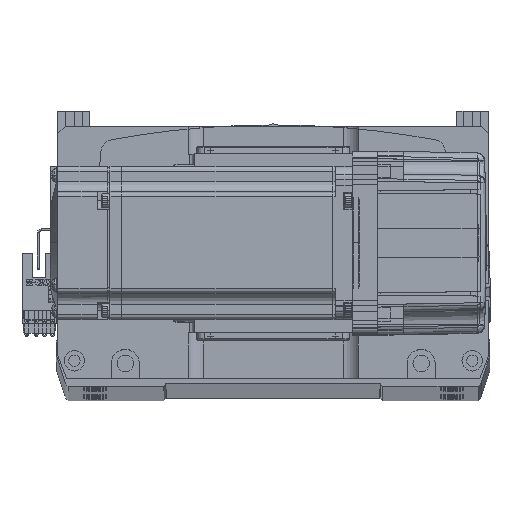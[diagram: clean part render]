
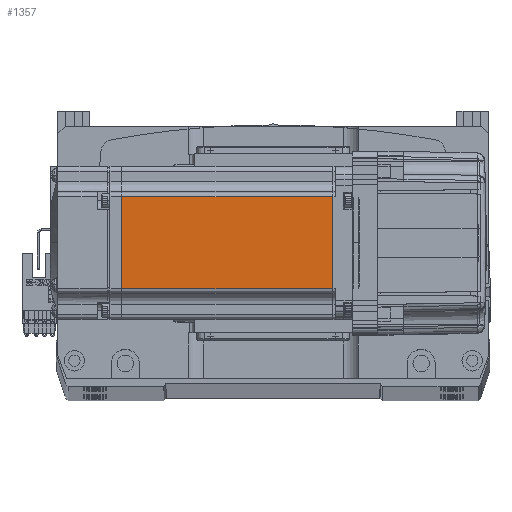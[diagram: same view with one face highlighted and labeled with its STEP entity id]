
A CAD part, top view. The second image highlights one B-rep face of the part: STEP entity #1357.
In plain terms, the highlighted planar face has unit normal (0, 0, 1).
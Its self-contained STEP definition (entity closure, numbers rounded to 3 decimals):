
#1296 = EDGE_LOOP ( 'NONE', ( #71257, #13076, #47323, #3846 ) ) ;
#1357 = ADVANCED_FACE ( 'NONE', ( #48514 ), #47454, .T. ) ;
#1721 = LINE ( 'NONE', #30647, #19933 ) ;
#3846 = ORIENTED_EDGE ( 'NONE', *, *, #57072, .F. ) ;
#4697 = CARTESIAN_POINT ( 'NONE',  ( -90.45, -18., 30. ) ) ;
#5232 = VECTOR ( 'NONE', #46242, 1000. ) ;
#9942 = DIRECTION ( 'NONE',  ( -1., 0., 0. ) ) ;
#12665 = VERTEX_POINT ( 'NONE', #59124 ) ;
#13076 = ORIENTED_EDGE ( 'NONE', *, *, #68002, .T. ) ;
#18709 = VERTEX_POINT ( 'NONE', #4697 ) ;
#19933 = VECTOR ( 'NONE', #63779, 1000. ) ;
#21113 = VERTEX_POINT ( 'NONE', #65244 ) ;
#22425 = LINE ( 'NONE', #32239, #35357 ) ;
#24961 = DIRECTION ( 'NONE',  ( 1., 0., 0. ) ) ;
#25304 = CARTESIAN_POINT ( 'NONE',  ( -7.75, -18., 30. ) ) ;
#27075 = LINE ( 'NONE', #37314, #33119 ) ;
#30647 = CARTESIAN_POINT ( 'NONE',  ( -90.45, 0., 30. ) ) ;
#31151 = LINE ( 'NONE', #40660, #5232 ) ;
#32239 = CARTESIAN_POINT ( 'NONE',  ( -7.75, 0., 30. ) ) ;
#33119 = VECTOR ( 'NONE', #9942, 1000. ) ;
#33210 = DIRECTION ( 'NONE',  ( 0., -1., 0. ) ) ;
#35357 = VECTOR ( 'NONE', #33210, 1000. ) ;
#35944 = VERTEX_POINT ( 'NONE', #25304 ) ;
#37314 = CARTESIAN_POINT ( 'NONE',  ( -6.5, -18., 30. ) ) ;
#39122 = EDGE_CURVE ( 'NONE', #21113, #18709, #1721, .T. ) ;
#40660 = CARTESIAN_POINT ( 'NONE',  ( -6.5, 18., 30. ) ) ;
#42126 = CARTESIAN_POINT ( 'NONE',  ( -6.5, -25., 30. ) ) ;
#43048 = EDGE_CURVE ( 'NONE', #12665, #35944, #22425, .T. ) ;
#46242 = DIRECTION ( 'NONE',  ( -1., 0., 0. ) ) ;
#47323 = ORIENTED_EDGE ( 'NONE', *, *, #39122, .T. ) ;
#47454 = PLANE ( 'NONE',  #52056 ) ;
#48514 = FACE_OUTER_BOUND ( 'NONE', #1296, .T. ) ;
#52056 = AXIS2_PLACEMENT_3D ( 'NONE', #42126, #69171, #24961 ) ;
#57072 = EDGE_CURVE ( 'NONE', #35944, #18709, #27075, .T. ) ;
#59124 = CARTESIAN_POINT ( 'NONE',  ( -7.75, 18., 30. ) ) ;
#63779 = DIRECTION ( 'NONE',  ( 0., -1., 0. ) ) ;
#65244 = CARTESIAN_POINT ( 'NONE',  ( -90.45, 18., 30. ) ) ;
#68002 = EDGE_CURVE ( 'NONE', #12665, #21113, #31151, .T. ) ;
#69171 = DIRECTION ( 'NONE',  ( 0., 0., 1. ) ) ;
#71257 = ORIENTED_EDGE ( 'NONE', *, *, #43048, .F. ) ;
